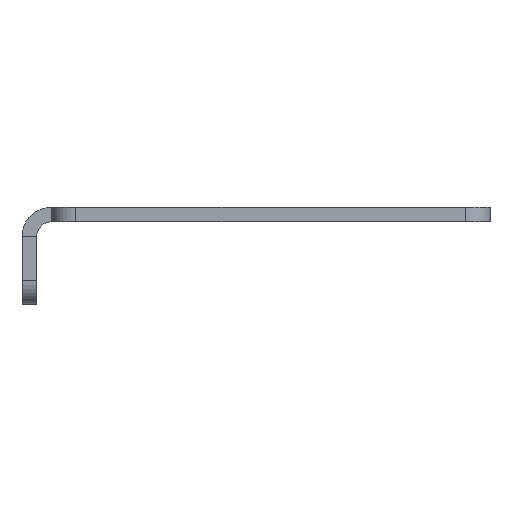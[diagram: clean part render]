
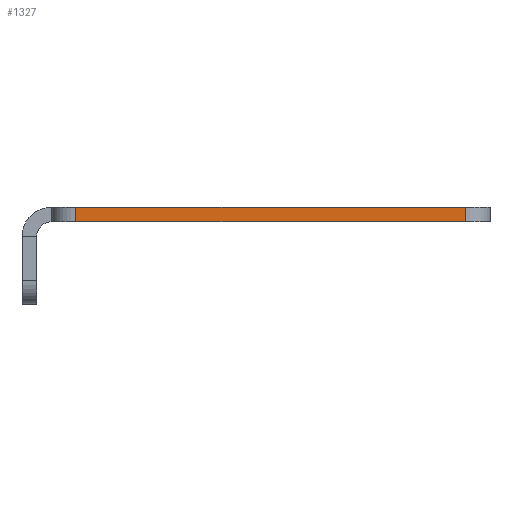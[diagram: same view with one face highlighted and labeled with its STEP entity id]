
A CAD part, left-side view. The second image highlights one B-rep face of the part: STEP entity #1327.
In plain terms, the highlighted planar face has unit normal (-1, 0, 0).
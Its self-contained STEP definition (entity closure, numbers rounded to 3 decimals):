
#28 = CARTESIAN_POINT ( 'NONE',  ( -290., 40., -3. ) ) ;
#190 = VECTOR ( 'NONE', #478, 1000. ) ;
#192 = CARTESIAN_POINT ( 'NONE',  ( -290., -40., 0. ) ) ;
#233 = PLANE ( 'NONE',  #1607 ) ;
#278 = CARTESIAN_POINT ( 'NONE',  ( -290., 40., 0. ) ) ;
#309 = CARTESIAN_POINT ( 'NONE',  ( -290., -45., -3. ) ) ;
#441 = VERTEX_POINT ( 'NONE', #192 ) ;
#478 = DIRECTION ( 'NONE',  ( 0., -1., 0. ) ) ;
#479 = VERTEX_POINT ( 'NONE', #937 ) ;
#539 = ORIENTED_EDGE ( 'NONE', *, *, #1532, .T. ) ;
#579 = LINE ( 'NONE', #1848, #1554 ) ;
#601 = DIRECTION ( 'NONE',  ( 0., 0., -1. ) ) ;
#730 = DIRECTION ( 'NONE',  ( 0., 0., 1. ) ) ;
#794 = VERTEX_POINT ( 'NONE', #278 ) ;
#937 = CARTESIAN_POINT ( 'NONE',  ( -290., 40., -3. ) ) ;
#970 = CARTESIAN_POINT ( 'NONE',  ( -290., -45., 0. ) ) ;
#1019 = LINE ( 'NONE', #309, #190 ) ;
#1147 = CARTESIAN_POINT ( 'NONE',  ( -290., -40., -3. ) ) ;
#1237 = ORIENTED_EDGE ( 'NONE', *, *, #1641, .T. ) ;
#1260 = EDGE_CURVE ( 'NONE', #479, #1645, #1019, .T. ) ;
#1278 = LINE ( 'NONE', #970, #1661 ) ;
#1327 = ADVANCED_FACE ( 'NONE', ( #1519 ), #233, .T. ) ;
#1335 = LINE ( 'NONE', #28, #1375 ) ;
#1375 = VECTOR ( 'NONE', #601, 1000. ) ;
#1488 = EDGE_CURVE ( 'NONE', #794, #441, #1278, .T. ) ;
#1492 = DIRECTION ( 'NONE',  ( -1., 0., 0. ) ) ;
#1519 = FACE_OUTER_BOUND ( 'NONE', #1698, .T. ) ;
#1532 = EDGE_CURVE ( 'NONE', #794, #479, #1335, .T. ) ;
#1547 = DIRECTION ( 'NONE',  ( 0., -1., 0. ) ) ;
#1554 = VECTOR ( 'NONE', #730, 1000. ) ;
#1594 = ORIENTED_EDGE ( 'NONE', *, *, #1260, .T. ) ;
#1607 = AXIS2_PLACEMENT_3D ( 'NONE', #1629, #1492, #1650 ) ;
#1629 = CARTESIAN_POINT ( 'NONE',  ( -290., -45., -3. ) ) ;
#1641 = EDGE_CURVE ( 'NONE', #1645, #441, #579, .T. ) ;
#1645 = VERTEX_POINT ( 'NONE', #1147 ) ;
#1650 = DIRECTION ( 'NONE',  ( 0., 0., 1. ) ) ;
#1661 = VECTOR ( 'NONE', #1547, 1000. ) ;
#1698 = EDGE_LOOP ( 'NONE', ( #1594, #1237, #1812, #539 ) ) ;
#1812 = ORIENTED_EDGE ( 'NONE', *, *, #1488, .F. ) ;
#1848 = CARTESIAN_POINT ( 'NONE',  ( -290., -40., -3. ) ) ;
